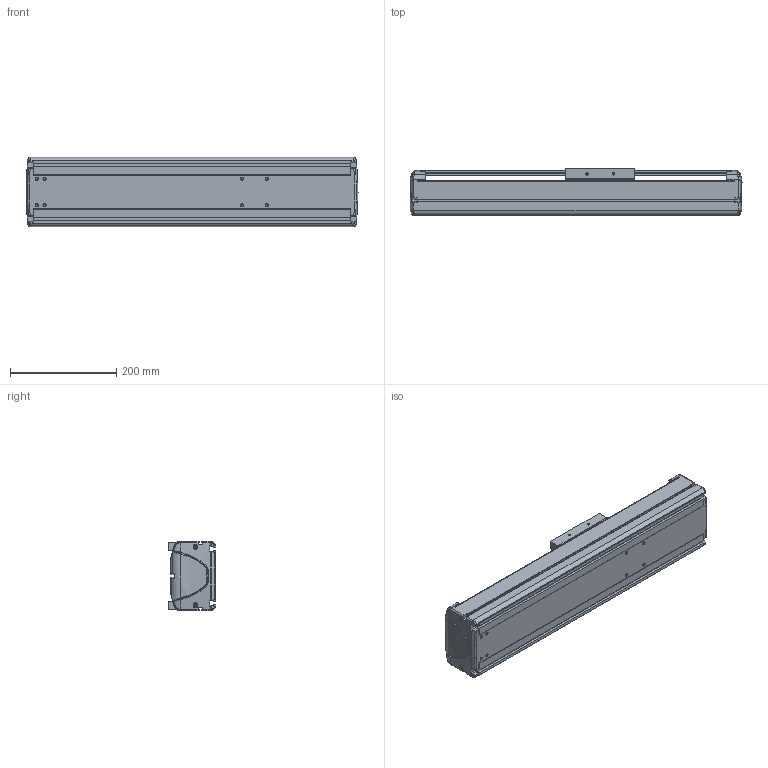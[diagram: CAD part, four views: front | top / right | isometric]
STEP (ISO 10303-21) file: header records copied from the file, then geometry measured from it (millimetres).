
FILE_DESCRIPTION((''),'2;1');
FILE_NAME('BE30E-ST-M_B-25_IGS_PRT','2017-06-17T',(' '),(''),'PRO/ENGINEER BY PARAMETRIC TECHNOLOGY CORPORATION, 2015030','PRO/ENGINEER BY PARAMETRIC TECHNOLOGY CORPORATION, 2015030','');
FILE_SCHEMA(('CONFIG_CONTROL_DESIGN'));
Length unit declared in the file: millimetre
Products named in the file (1): BE30E-ST-M_B-25_IGS_PRT
Bounding box: 625 x 89.8 x 130 mm (x, y, z)
Volume: 2189594.3 mm3; surface area: 789295.1 mm2
Topology: 2 solids, 64 shells, 1279 faces, 3397 edges, 2204 vertices
Faces by surface type: plane 593, cylinder 524, bspline 60, torus 46, cone 32, sphere 24
Entity records: 42662 total; most frequent: CARTESIAN_POINT 10862, DIRECTION 6532, ORIENTED_EDGE 6507, EDGE_CURVE 3377, AXIS2_PLACEMENT_3D 2324, VERTEX_POINT 2204, VECTOR 1884, LINE 1884
